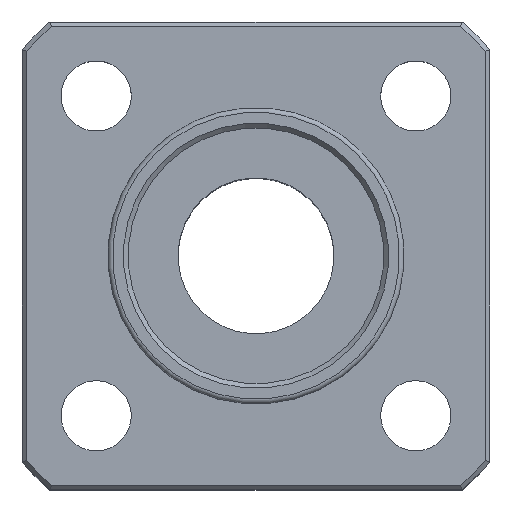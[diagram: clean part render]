
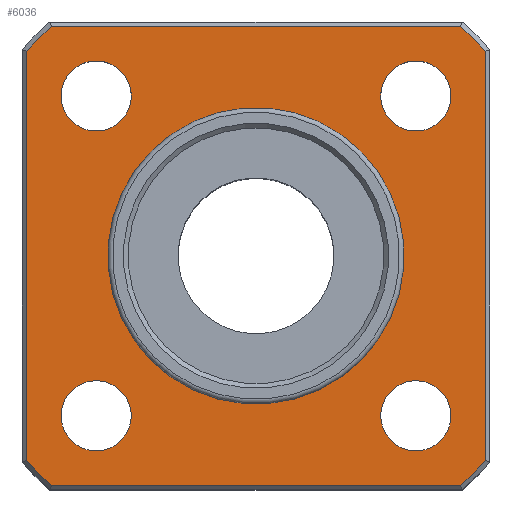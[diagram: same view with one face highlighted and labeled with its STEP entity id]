
A CAD part, top view. The second image highlights one B-rep face of the part: STEP entity #6036.
In plain terms, the highlighted planar face has unit normal (0, 0, 1).
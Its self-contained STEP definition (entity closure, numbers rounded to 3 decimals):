
#130=CIRCLE('',#6409,19.7);
#133=CIRCLE('',#6413,19.7);
#137=CIRCLE('',#6422,19.7);
#150=CIRCLE('',#6442,9.5);
#158=CIRCLE('',#6455,19.7);
#159=CIRCLE('',#6456,2.25);
#160=CIRCLE('',#6457,2.25);
#161=CIRCLE('',#6458,2.25);
#162=CIRCLE('',#6459,2.25);
#625=ORIENTED_EDGE('',*,*,#2329,.T.);
#626=ORIENTED_EDGE('',*,*,#2353,.T.);
#627=ORIENTED_EDGE('',*,*,#2309,.T.);
#628=ORIENTED_EDGE('',*,*,#2354,.T.);
#629=ORIENTED_EDGE('',*,*,#2315,.T.);
#630=ORIENTED_EDGE('',*,*,#2355,.T.);
#631=ORIENTED_EDGE('',*,*,#2356,.T.);
#632=ORIENTED_EDGE('',*,*,#2357,.T.);
#633=ORIENTED_EDGE('',*,*,#2358,.F.);
#634=ORIENTED_EDGE('',*,*,#2359,.F.);
#635=ORIENTED_EDGE('',*,*,#2360,.F.);
#636=ORIENTED_EDGE('',*,*,#2361,.F.);
#637=ORIENTED_EDGE('',*,*,#2343,.T.);
#2309=EDGE_CURVE('',#3176,#3177,#130,.T.);
#2315=EDGE_CURVE('',#3183,#3182,#133,.T.);
#2329=EDGE_CURVE('',#3191,#3190,#137,.T.);
#2343=EDGE_CURVE('',#3204,#3204,#150,.F.);
#2353=EDGE_CURVE('',#3190,#3176,#3702,.T.);
#2354=EDGE_CURVE('',#3177,#3183,#3703,.T.);
#2355=EDGE_CURVE('',#3182,#3213,#3704,.T.);
#2356=EDGE_CURVE('',#3213,#3214,#158,.T.);
#2357=EDGE_CURVE('',#3214,#3191,#3705,.T.);
#2358=EDGE_CURVE('',#3215,#3215,#159,.T.);
#2359=EDGE_CURVE('',#3216,#3216,#160,.T.);
#2360=EDGE_CURVE('',#3217,#3217,#161,.T.);
#2361=EDGE_CURVE('',#3218,#3218,#162,.T.);
#3176=VERTEX_POINT('',#9505);
#3177=VERTEX_POINT('',#9506);
#3182=VERTEX_POINT('',#9526);
#3183=VERTEX_POINT('',#9528);
#3190=VERTEX_POINT('',#9571);
#3191=VERTEX_POINT('',#9573);
#3204=VERTEX_POINT('',#9610);
#3213=VERTEX_POINT('',#9636);
#3214=VERTEX_POINT('',#9638);
#3215=VERTEX_POINT('',#9641);
#3216=VERTEX_POINT('',#9643);
#3217=VERTEX_POINT('',#9645);
#3218=VERTEX_POINT('',#9647);
#3702=LINE('',#9633,#4379);
#3703=LINE('',#9634,#4380);
#3704=LINE('',#9635,#4381);
#3705=LINE('',#9639,#4382);
#4379=VECTOR('',#7078,1000.);
#4380=VECTOR('',#7079,1000.);
#4381=VECTOR('',#7080,1000.);
#4382=VECTOR('',#7083,1000.);
#4929=EDGE_LOOP('',(#625,#626,#627,#628,#629,#630,#631,#632));
#4930=EDGE_LOOP('',(#633));
#4931=EDGE_LOOP('',(#634));
#4932=EDGE_LOOP('',(#635));
#4933=EDGE_LOOP('',(#636));
#4934=EDGE_LOOP('',(#637));
#5376=FACE_BOUND('',#4929,.T.);
#5377=FACE_BOUND('',#4930,.T.);
#5378=FACE_BOUND('',#4931,.T.);
#5379=FACE_BOUND('',#4932,.T.);
#5380=FACE_BOUND('',#4933,.T.);
#5381=FACE_BOUND('',#4934,.T.);
#5754=PLANE('',#6454);
#6036=ADVANCED_FACE('',(#5376,#5377,#5378,#5379,#5380,#5381),#5754,.T.);
#6409=AXIS2_PLACEMENT_3D('',#9504,#6980,#6981);
#6413=AXIS2_PLACEMENT_3D('',#9527,#6988,#6989);
#6422=AXIS2_PLACEMENT_3D('',#9572,#7010,#7011);
#6442=AXIS2_PLACEMENT_3D('',#9609,#7050,#7051);
#6454=AXIS2_PLACEMENT_3D('',#9632,#7076,#7077);
#6455=AXIS2_PLACEMENT_3D('',#9637,#7081,#7082);
#6456=AXIS2_PLACEMENT_3D('',#9640,#7084,#7085);
#6457=AXIS2_PLACEMENT_3D('',#9642,#7086,#7087);
#6458=AXIS2_PLACEMENT_3D('',#9644,#7088,#7089);
#6459=AXIS2_PLACEMENT_3D('',#9646,#7090,#7091);
#6980=DIRECTION('',(0.,0.,1.));
#6981=DIRECTION('',(0.707,-0.707,0.));
#6988=DIRECTION('',(0.,0.,1.));
#6989=DIRECTION('',(0.707,-0.707,0.));
#7010=DIRECTION('',(0.,0.,1.));
#7011=DIRECTION('',(0.707,-0.707,0.));
#7050=DIRECTION('',(0.,0.,1.));
#7051=DIRECTION('',(0.707,-0.707,0.));
#7076=DIRECTION('',(0.,0.,1.));
#7077=DIRECTION('',(0.707,-0.707,0.));
#7078=DIRECTION('',(0.,-1.,0.));
#7079=DIRECTION('',(1.,0.,0.));
#7080=DIRECTION('',(0.,1.,0.));
#7081=DIRECTION('',(0.,0.,1.));
#7082=DIRECTION('',(0.707,-0.707,0.));
#7083=DIRECTION('',(-1.,0.,0.));
#7084=DIRECTION('',(0.,0.,1.));
#7085=DIRECTION('',(0.707,-0.707,0.));
#7086=DIRECTION('',(0.,0.,1.));
#7087=DIRECTION('',(0.707,-0.707,0.));
#7088=DIRECTION('',(0.,0.,1.));
#7089=DIRECTION('',(0.707,-0.707,0.));
#7090=DIRECTION('',(0.,0.,1.));
#7091=DIRECTION('',(0.707,-0.707,0.));
#9504=CARTESIAN_POINT('',(0.,0.,0.));
#9505=CARTESIAN_POINT('',(-14.7,-13.115,0.));
#9506=CARTESIAN_POINT('',(-13.115,-14.7,0.));
#9526=CARTESIAN_POINT('',(14.7,-13.115,0.));
#9527=CARTESIAN_POINT('',(0.,0.,0.));
#9528=CARTESIAN_POINT('',(13.115,-14.7,0.));
#9571=CARTESIAN_POINT('',(-14.7,13.115,0.));
#9572=CARTESIAN_POINT('',(0.,0.,0.));
#9573=CARTESIAN_POINT('',(-13.115,14.7,0.));
#9609=CARTESIAN_POINT('',(0.,0.,0.));
#9610=CARTESIAN_POINT('',(6.718,-6.718,0.));
#9632=CARTESIAN_POINT('',(0.,0.,0.));
#9633=CARTESIAN_POINT('',(-14.7,-12.771,0.));
#9634=CARTESIAN_POINT('',(12.771,-14.7,0.));
#9635=CARTESIAN_POINT('',(14.7,12.771,0.));
#9636=CARTESIAN_POINT('',(14.7,13.115,0.));
#9637=CARTESIAN_POINT('',(0.,0.,0.));
#9638=CARTESIAN_POINT('',(13.115,14.7,0.));
#9639=CARTESIAN_POINT('',(-12.771,14.7,0.));
#9640=CARTESIAN_POINT('',(10.253,10.253,0.));
#9641=CARTESIAN_POINT('',(11.844,8.662,0.));
#9642=CARTESIAN_POINT('',(-10.253,10.253,0.));
#9643=CARTESIAN_POINT('',(-8.662,8.662,0.));
#9644=CARTESIAN_POINT('',(-10.253,-10.253,0.));
#9645=CARTESIAN_POINT('',(-8.662,-11.844,0.));
#9646=CARTESIAN_POINT('',(10.253,-10.253,0.));
#9647=CARTESIAN_POINT('',(11.844,-11.844,0.));
